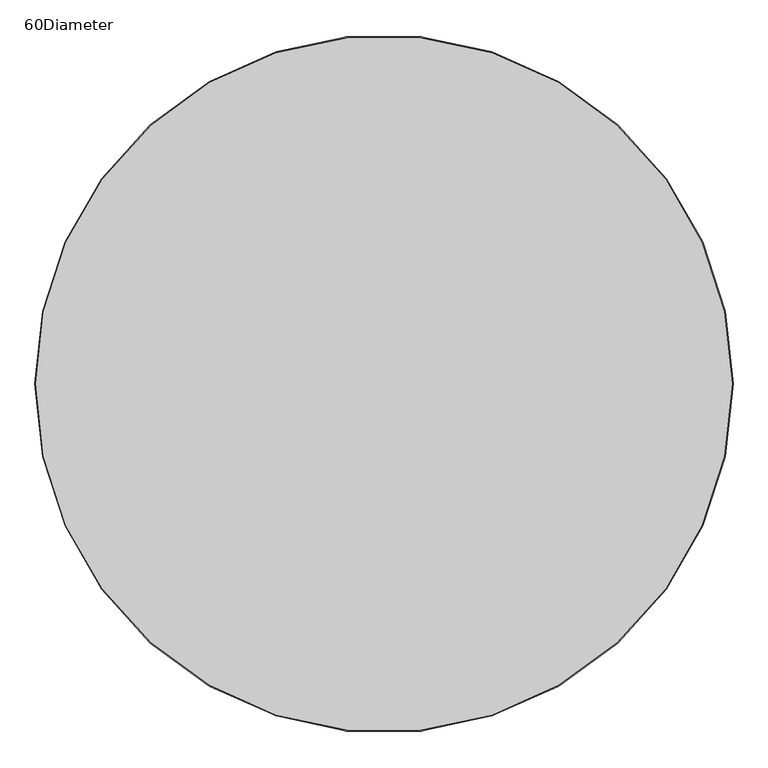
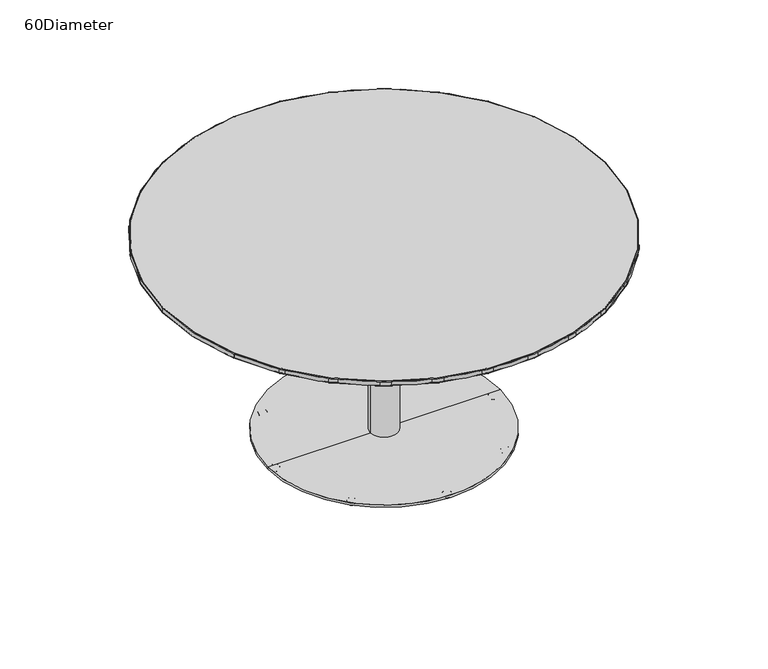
"""IFC4 building model written with IfcOpenShell, lengths in millimetres: furniture geometry, Coalesse_AM_Table_Conference_Montara650_WorkHeight_Round : 60Diameter."""

from ifc_helpers import new_model, si_unit, point, frame, origin, origin_with_axes, origin_2d, place, context, project, spatial, polyline, circle_curve, ellipse_curve, trimmed, segment, composite_curve, outline, extrude, source, transform, mapped, element, save
from ifc_brep_helpers import plane_surface, cylinder_surface, revolved_surface, advanced_brep


def furniture_60diameter_19c09006(model_context):
    return source(origin(), model_context, "Body", "SolidModel", [
        advanced_brep(
        [(265.1850578, -265.1850578, 0.0), (272.5277002, -272.5277002, 0.0), (257.8424153, -257.8424153, 0.0), (273.0742024, -273.0742024, 0.5718943), (257.2959132, -257.2959132, 0.5718943), (275.3733015, -275.3733015, 11.2068005), (254.9968141, -254.9968141, 11.2068005), (274.9582806, -274.9582806, 11.9999882), (255.4118349, -255.4118349, 11.9999882), (265.1850578, -265.1850578, 11.9999882)],
        [
            (0, 1),
            (1, 2, circle_curve(frame((265.1850578, -265.1850578, 0.0), z_axis=(0.0, 0.0, -1.0), x_axis=(0.7071067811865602, -0.7071067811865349, 0.0)), 10.3840645)),
            (2, 0),
            (2, 1, circle_curve(frame((265.1850578, -265.1850578, 0.0), z_axis=(0.0, 0.0, -1.0), x_axis=(0.7071067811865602, -0.7071067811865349, 0.0)), 10.3840645)),
            (1, 3, circle_curve(frame((272.5277002, -272.5277002, 0.8081846), z_axis=(-0.7071067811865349, -0.7071067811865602, 0.0), x_axis=(0.7071067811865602, -0.7071067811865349, 0.0)), 0.8081846)),
            (3, 4, circle_curve(frame((265.1850578, -265.1850578, 0.5718943), z_axis=(0.0, 0.0, -1.0), x_axis=(0.7071067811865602, -0.7071067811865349, 0.0)), 11.1569353)),
            (4, 2, circle_curve(frame((257.8424153, -257.8424153, 0.8081846), z_axis=(-0.7071067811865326, -0.7071067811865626, 0.0), x_axis=(-0.7071067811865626, 0.7071067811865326, 0.0)), 0.8081846)),
            (4, 3, circle_curve(frame((265.1850578, -265.1850578, 0.5718943), z_axis=(0.0, 0.0, -1.0), x_axis=(0.7071067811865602, -0.7071067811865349, 0.0)), 11.1569353)),
            (3, 5),
            (5, 6, circle_curve(frame((265.1850578, -265.1850578, 11.2068005), z_axis=(0.0, 0.0, -1.0), x_axis=(0.7071067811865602, -0.7071067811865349, 0.0)), 14.4083524)),
            (6, 4),
            (6, 5, circle_curve(frame((265.1850578, -265.1850578, 11.2068005), z_axis=(0.0, 0.0, -1.0), x_axis=(0.7071067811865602, -0.7071067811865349, 0.0)), 14.4083524)),
            (5, 7, circle_curve(frame((274.9582806, -274.9582806, 11.3862424), z_axis=(-0.7071067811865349, -0.7071067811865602, 0.0), x_axis=(0.7071067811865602, -0.7071067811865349, 0.0)), 0.6137458)),
            (7, 8, circle_curve(frame((265.1850578, -265.1850578, 11.9999882), z_axis=(0.0, 0.0, -1.0), x_axis=(0.7071067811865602, -0.7071067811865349, 0.0)), 13.8214243)),
            (8, 6, circle_curve(frame((255.4118349, -255.4118349, 11.3862424), z_axis=(-0.7071067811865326, -0.7071067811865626, 0.0), x_axis=(-0.7071067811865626, 0.7071067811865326, 0.0)), 0.6137458)),
            (8, 7, circle_curve(frame((265.1850578, -265.1850578, 11.9999882), z_axis=(0.0, 0.0, -1.0), x_axis=(0.7071067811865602, -0.7071067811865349, 0.0)), 13.8214243)),
            (7, 9),
            (9, 8),
        ],
        [
            plane_surface(frame((265.1850578, -265.1850578, 0.0), z_axis=(0.0, 0.0, -1.0000000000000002), x_axis=(0.7071067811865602, -0.7071067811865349, 0.0))),
            revolved_surface(trimmed(ellipse_curve(frame((272.5277002, -272.5277002, 0.8081846), z_axis=(0.7071067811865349, 0.7071067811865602, 0.0), x_axis=(0.7071067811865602, -0.7071067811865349, 0.0)), 0.8081846, 0.8081846), [point((273.0742024, -273.0742024, 0.5718943))], [point((272.5277002, -272.5277002, 0.0))], True, "CARTESIAN"), (265.1850578, -265.1850578, 12.2086845), (0.0, 0.0, -1.0)),
            revolved_surface(polyline([(275.3733015, -275.3733015, 11.2068005), (273.0742024, -273.0742024, 0.5718943)]), (265.1850578, -265.1850578, 12.2086845), (0.0, 0.0, -1.0)),
            revolved_surface(trimmed(ellipse_curve(frame((274.9582806, -274.9582806, 11.3862424), z_axis=(0.7071067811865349, 0.7071067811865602, 0.0), x_axis=(0.7071067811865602, -0.7071067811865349, 0.0)), 0.6137458, 0.6137458), [point((274.9582806, -274.9582806, 11.9999882))], [point((275.3733015, -275.3733015, 11.2068005))], True, "CARTESIAN"), (265.1850578, -265.1850578, 12.2086845), (0.0, 0.0, -1.0)),
            plane_surface(frame((265.1850578, -265.1850578, 11.9999882), z_axis=(0.0, 0.0, 1.0000000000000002), x_axis=(0.7071067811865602, -0.7071067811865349, 0.0))),
        ],
        [
            (0, [[1, 2, 3]]),
            (0, [[-3, 4, -1]]),
            (1, [[-2, 5, 6, 7]]),
            (1, [[-4, -7, 8, -5]]),
            (2, [[-6, 9, 10, 11]]),
            (2, [[-8, -11, 12, -9]]),
            (3, [[-10, 13, 14, 15]]),
            (3, [[-12, -15, 16, -13]]),
            (4, [[-14, 17, 18]]),
            (4, [[-16, -18, -17]]),
        ],
    ),
        advanced_brep(
        [(-257.8424153, -257.8424153, 0.0), (-272.5277002, -272.5277002, 0.0), (-265.1850578, -265.1850578, 0.0), (-257.2959132, -257.2959132, 0.5718943), (-273.0742024, -273.0742024, 0.5718943), (-254.9968141, -254.9968141, 11.2068005), (-275.3733015, -275.3733015, 11.2068005), (-255.4118349, -255.4118349, 11.9999882), (-274.9582806, -274.9582806, 11.9999882), (-265.1850578, -265.1850578, 11.9999882)],
        [
            (0, 1, circle_curve(frame((-265.1850578, -265.1850578, 0.0), z_axis=(0.0, 0.0, -1.0), x_axis=(-0.7071067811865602, -0.7071067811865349, 0.0)), 10.3840645)),
            (1, 2),
            (2, 0),
            (1, 0, circle_curve(frame((-265.1850578, -265.1850578, 0.0), z_axis=(0.0, 0.0, -1.0), x_axis=(-0.7071067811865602, -0.7071067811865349, 0.0)), 10.3840645)),
            (3, 4, circle_curve(frame((-265.1850578, -265.1850578, 0.5718943), z_axis=(0.0, 0.0, -1.0), x_axis=(-0.7071067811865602, -0.7071067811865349, 0.0)), 11.1569353)),
            (4, 1, circle_curve(frame((-272.5277002, -272.5277002, 0.8081846), z_axis=(0.7071067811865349, -0.7071067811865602, 0.0), x_axis=(-0.7071067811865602, -0.7071067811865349, 0.0)), 0.8081846)),
            (0, 3, circle_curve(frame((-257.8424153, -257.8424153, 0.8081846), z_axis=(0.7071067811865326, -0.7071067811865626, 0.0), x_axis=(0.7071067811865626, 0.7071067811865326, 0.0)), 0.8081846)),
            (4, 3, circle_curve(frame((-265.1850578, -265.1850578, 0.5718943), z_axis=(0.0, 0.0, -1.0), x_axis=(-0.7071067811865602, -0.7071067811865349, 0.0)), 11.1569353)),
            (5, 6, circle_curve(frame((-265.1850578, -265.1850578, 11.2068005), z_axis=(0.0, 0.0, -1.0), x_axis=(-0.7071067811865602, -0.7071067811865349, 0.0)), 14.4083524)),
            (6, 4),
            (3, 5),
            (6, 5, circle_curve(frame((-265.1850578, -265.1850578, 11.2068005), z_axis=(0.0, 0.0, -1.0), x_axis=(-0.7071067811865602, -0.7071067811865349, 0.0)), 14.4083524)),
            (7, 8, circle_curve(frame((-265.1850578, -265.1850578, 11.9999882), z_axis=(0.0, 0.0, -1.0), x_axis=(-0.7071067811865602, -0.7071067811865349, 0.0)), 13.8214243)),
            (8, 6, circle_curve(frame((-274.9582806, -274.9582806, 11.3862424), z_axis=(0.7071067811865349, -0.7071067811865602, 0.0), x_axis=(-0.7071067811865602, -0.7071067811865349, 0.0)), 0.6137458)),
            (5, 7, circle_curve(frame((-255.4118349, -255.4118349, 11.3862424), z_axis=(0.7071067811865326, -0.7071067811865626, 0.0), x_axis=(0.7071067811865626, 0.7071067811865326, 0.0)), 0.6137458)),
            (8, 7, circle_curve(frame((-265.1850578, -265.1850578, 11.9999882), z_axis=(0.0, 0.0, -1.0), x_axis=(-0.7071067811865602, -0.7071067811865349, 0.0)), 13.8214243)),
            (9, 8),
            (7, 9),
        ],
        [
            plane_surface(frame((-265.1850578, -265.1850578, 0.0), z_axis=(0.0, 0.0, -1.0000000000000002), x_axis=(-0.7071067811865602, -0.7071067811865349, 0.0))),
            revolved_surface(trimmed(ellipse_curve(frame((-272.5277002, -272.5277002, 0.8081846), z_axis=(-0.7071067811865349, 0.7071067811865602, 0.0), x_axis=(-0.7071067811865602, -0.7071067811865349, 0.0)), 0.8081846, 0.8081846), [point((-272.5277002, -272.5277002, 0.0))], [point((-273.0742024, -273.0742024, 0.5718943))], True, "CARTESIAN"), (-265.1850578, -265.1850578, 12.2086845), (0.0, 0.0, 1.0)),
            revolved_surface(polyline([(-273.0742024, -273.0742024, 0.5718943), (-275.3733015, -275.3733015, 11.2068005)]), (-265.1850578, -265.1850578, 12.2086845), (0.0, 0.0, 1.0)),
            revolved_surface(trimmed(ellipse_curve(frame((-274.9582806, -274.9582806, 11.3862424), z_axis=(-0.7071067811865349, 0.7071067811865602, 0.0), x_axis=(-0.7071067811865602, -0.7071067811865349, 0.0)), 0.6137458, 0.6137458), [point((-275.3733015, -275.3733015, 11.2068005))], [point((-274.9582806, -274.9582806, 11.9999882))], True, "CARTESIAN"), (-265.1850578, -265.1850578, 12.2086845), (0.0, 0.0, 1.0)),
            plane_surface(frame((-265.1850578, -265.1850578, 11.9999882), z_axis=(0.0, 0.0, 1.0000000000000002), x_axis=(-0.7071067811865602, -0.7071067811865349, 0.0))),
        ],
        [
            (0, [[1, 2, 3]]),
            (0, [[4, -3, -2]]),
            (1, [[5, 6, -1, 7]]),
            (1, [[8, -7, -4, -6]]),
            (2, [[9, 10, -5, 11]]),
            (2, [[12, -11, -8, -10]]),
            (3, [[13, 14, -9, 15]]),
            (3, [[16, -15, -12, -14]]),
            (4, [[17, -13, 18]]),
            (4, [[-18, -16, -17]]),
        ],
    ),
        advanced_brep(
        [(0.0, -364.6442407, 0.0), (0.0, -385.4123697, 0.0), (0.0, -375.0283052, 0.0), (0.0, -363.87137, 0.5718943), (0.0, -386.1852405, 0.5718943), (0.0, -360.6199529, 11.2068005), (0.0, -389.4366576, 11.2068005), (0.0, -361.2068809, 11.9999882), (0.0, -388.8497296, 11.9999882), (0.0, -375.0283052, 11.9999882)],
        [
            (0, 1, circle_curve(frame((0.0, -375.0283052, 0.0), z_axis=(0.0, 0.0, -1.0), x_axis=(0.0, -1.0, 0.0)), 10.3840645)),
            (1, 2),
            (2, 0),
            (1, 0, circle_curve(frame((0.0, -375.0283052, 0.0), z_axis=(0.0, 0.0, -1.0), x_axis=(0.0, -1.0, 0.0)), 10.3840645)),
            (3, 4, circle_curve(frame((0.0, -375.0283052, 0.5718943), z_axis=(0.0, 0.0, -1.0), x_axis=(0.0, -1.0, 0.0)), 11.1569353)),
            (4, 1, circle_curve(frame((0.0, -385.4123697, 0.8081846), z_axis=(1.0, 0.0, 0.0), x_axis=(0.0, -1.0, 0.0)), 0.8081846)),
            (0, 3, circle_curve(frame((0.0, -364.6442407, 0.8081846), z_axis=(1.0, 0.0, 0.0), x_axis=(0.0, 1.0, 0.0)), 0.8081846)),
            (4, 3, circle_curve(frame((0.0, -375.0283052, 0.5718943), z_axis=(0.0, 0.0, -1.0), x_axis=(0.0, -1.0, 0.0)), 11.1569353)),
            (5, 6, circle_curve(frame((0.0, -375.0283052, 11.2068005), z_axis=(0.0, 0.0, -1.0), x_axis=(0.0, -1.0, 0.0)), 14.4083524)),
            (6, 4),
            (3, 5),
            (6, 5, circle_curve(frame((0.0, -375.0283052, 11.2068005), z_axis=(0.0, 0.0, -1.0), x_axis=(0.0, -1.0, 0.0)), 14.4083524)),
            (7, 8, circle_curve(frame((0.0, -375.0283052, 11.9999882), z_axis=(0.0, 0.0, -1.0), x_axis=(0.0, -1.0, 0.0)), 13.8214243)),
            (8, 6, circle_curve(frame((0.0, -388.8497296, 11.3862424), z_axis=(1.0, 0.0, 0.0), x_axis=(0.0, -1.0, 0.0)), 0.6137458)),
            (5, 7, circle_curve(frame((0.0, -361.2068809, 11.3862424), z_axis=(1.0, 0.0, 0.0), x_axis=(0.0, 1.0, 0.0)), 0.6137458)),
            (8, 7, circle_curve(frame((0.0, -375.0283052, 11.9999882), z_axis=(0.0, 0.0, -1.0), x_axis=(0.0, -1.0, 0.0)), 13.8214243)),
            (9, 8),
            (7, 9),
        ],
        [
            plane_surface(frame((0.0, -375.0283052, 0.0), z_axis=(0.0, 0.0, -1.0), x_axis=(0.0, -1.0, 0.0))),
            revolved_surface(trimmed(ellipse_curve(frame((0.0, -385.4123697, 0.8081846), z_axis=(-1.0, 0.0, 0.0), x_axis=(0.0, -1.0, 0.0)), 0.8081846, 0.8081846), [point((0.0, -385.4123697, 0.0))], [point((0.0, -386.1852405, 0.5718943))], True, "CARTESIAN"), (0.0, -375.0283052, 12.2086845), (0.0, 0.0, 1.0)),
            revolved_surface(polyline([(0.0, -386.1852405, 0.5718943), (0.0, -389.4366576, 11.2068005)]), (0.0, -375.0283052, 12.2086845), (0.0, 0.0, 1.0)),
            revolved_surface(trimmed(ellipse_curve(frame((0.0, -388.8497296, 11.3862424), z_axis=(-1.0, 0.0, 0.0), x_axis=(0.0, -1.0, 0.0)), 0.6137458, 0.6137458), [point((0.0, -389.4366576, 11.2068005))], [point((0.0, -388.8497296, 11.9999882))], True, "CARTESIAN"), (0.0, -375.0283052, 12.2086845), (0.0, 0.0, 1.0)),
            plane_surface(frame((0.0, -375.0283052, 11.9999882), z_axis=(0.0, 0.0, 1.0), x_axis=(0.0, -1.0, 0.0))),
        ],
        [
            (0, [[1, 2, 3]]),
            (0, [[4, -3, -2]]),
            (1, [[5, 6, -1, 7]]),
            (1, [[8, -7, -4, -6]]),
            (2, [[9, 10, -5, 11]]),
            (2, [[12, -11, -8, -10]]),
            (3, [[13, 14, -9, 15]]),
            (3, [[16, -15, -12, -14]]),
            (4, [[17, -13, 18]]),
            (4, [[-18, -16, -17]]),
        ],
    ),
        advanced_brep(
        [(364.6442407, 0.0, 0.0), (385.4123697, 0.0, 0.0), (375.0283052, 0.0, 0.0), (363.87137, 0.0, 0.5718943), (386.1852405, 0.0, 0.5718943), (360.6199529, 0.0, 11.2068005), (389.4366576, 0.0, 11.2068005), (361.2068809, 0.0, 11.9999882), (388.8497296, 0.0, 11.9999882), (375.0283052, 0.0, 11.9999882)],
        [
            (0, 1, circle_curve(frame((375.0283052, 0.0, 0.0), z_axis=(0.0, 0.0, -1.0), x_axis=(1.0, 0.0, 0.0)), 10.3840645)),
            (1, 2),
            (2, 0),
            (1, 0, circle_curve(frame((375.0283052, 0.0, 0.0), z_axis=(0.0, 0.0, -1.0), x_axis=(1.0, 0.0, 0.0)), 10.3840645)),
            (3, 4, circle_curve(frame((375.0283052, 0.0, 0.5718943), z_axis=(0.0, 0.0, -1.0), x_axis=(1.0, 0.0, 0.0)), 11.1569353)),
            (4, 1, circle_curve(frame((385.4123697, 0.0, 0.8081846), z_axis=(0.0, 1.0, 0.0), x_axis=(1.0, 0.0, 0.0)), 0.8081846)),
            (0, 3, circle_curve(frame((364.6442407, 0.0, 0.8081846), z_axis=(0.0, 1.0, 0.0), x_axis=(-1.0, 0.0, 0.0)), 0.8081846)),
            (4, 3, circle_curve(frame((375.0283052, 0.0, 0.5718943), z_axis=(0.0, 0.0, -1.0), x_axis=(1.0, 0.0, 0.0)), 11.1569353)),
            (5, 6, circle_curve(frame((375.0283052, 0.0, 11.2068005), z_axis=(0.0, 0.0, -1.0), x_axis=(1.0, 0.0, 0.0)), 14.4083524)),
            (6, 4),
            (3, 5),
            (6, 5, circle_curve(frame((375.0283052, 0.0, 11.2068005), z_axis=(0.0, 0.0, -1.0), x_axis=(1.0, 0.0, 0.0)), 14.4083524)),
            (7, 8, circle_curve(frame((375.0283052, 0.0, 11.9999882), z_axis=(0.0, 0.0, -1.0), x_axis=(1.0, 0.0, 0.0)), 13.8214243)),
            (8, 6, circle_curve(frame((388.8497296, 0.0, 11.3862424), z_axis=(0.0, 1.0, 0.0), x_axis=(1.0, 0.0, 0.0)), 0.6137458)),
            (5, 7, circle_curve(frame((361.2068809, 0.0, 11.3862424), z_axis=(0.0, 1.0, 0.0), x_axis=(-1.0, 0.0, 0.0)), 0.6137458)),
            (8, 7, circle_curve(frame((375.0283052, 0.0, 11.9999882), z_axis=(0.0, 0.0, -1.0), x_axis=(1.0, 0.0, 0.0)), 13.8214243)),
            (9, 8),
            (7, 9),
        ],
        [
            plane_surface(frame((375.0283052, 0.0, 0.0), z_axis=(0.0, 0.0, -1.0), x_axis=(1.0, 0.0, 0.0))),
            revolved_surface(trimmed(ellipse_curve(frame((385.4123697, 0.0, 0.8081846), z_axis=(0.0, -1.0, 0.0), x_axis=(1.0, 0.0, 0.0)), 0.8081846, 0.8081846), [point((385.4123697, 0.0, 0.0))], [point((386.1852405, 0.0, 0.5718943))], True, "CARTESIAN"), (375.0283052, 0.0, 12.2086845), (0.0, 0.0, 1.0)),
            revolved_surface(polyline([(386.1852405, 0.0, 0.5718943), (389.4366576, 0.0, 11.2068005)]), (375.0283052, 0.0, 12.2086845), (0.0, 0.0, 1.0)),
            revolved_surface(trimmed(ellipse_curve(frame((388.8497296, 0.0, 11.3862424), z_axis=(0.0, -1.0, 0.0), x_axis=(1.0, 0.0, 0.0)), 0.6137458, 0.6137458), [point((389.4366576, 0.0, 11.2068005))], [point((388.8497296, 0.0, 11.9999882))], True, "CARTESIAN"), (375.0283052, 0.0, 12.2086845), (0.0, 0.0, 1.0)),
            plane_surface(frame((375.0283052, 0.0, 11.9999882), z_axis=(0.0, 0.0, 1.0), x_axis=(1.0, 0.0, 0.0))),
        ],
        [
            (0, [[1, 2, 3]]),
            (0, [[4, -3, -2]]),
            (1, [[5, 6, -1, 7]]),
            (1, [[8, -7, -4, -6]]),
            (2, [[9, 10, -5, 11]]),
            (2, [[12, -11, -8, -10]]),
            (3, [[13, 14, -9, 15]]),
            (3, [[16, -15, -12, -14]]),
            (4, [[17, -13, 18]]),
            (4, [[-18, -16, -17]]),
        ],
    ),
        advanced_brep(
        [(257.8424153, 257.8424153, 0.0), (272.5277002, 272.5277002, 0.0), (265.1850578, 265.1850578, 0.0), (257.2959132, 257.2959132, 0.5718943), (273.0742024, 273.0742024, 0.5718943), (254.9968141, 254.9968141, 11.2068005), (275.3733015, 275.3733015, 11.2068005), (255.4118349, 255.4118349, 11.9999882), (274.9582806, 274.9582806, 11.9999882), (265.1850578, 265.1850578, 11.9999882)],
        [
            (0, 1, circle_curve(frame((265.1850578, 265.1850578, 0.0), z_axis=(0.0, 0.0, -1.0), x_axis=(0.7071067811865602, 0.7071067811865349, 0.0)), 10.3840645)),
            (1, 2),
            (2, 0),
            (1, 0, circle_curve(frame((265.1850578, 265.1850578, 0.0), z_axis=(0.0, 0.0, -1.0), x_axis=(0.7071067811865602, 0.7071067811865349, 0.0)), 10.3840645)),
            (3, 4, circle_curve(frame((265.1850578, 265.1850578, 0.5718943), z_axis=(0.0, 0.0, -1.0), x_axis=(0.7071067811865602, 0.7071067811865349, 0.0)), 11.1569353)),
            (4, 1, circle_curve(frame((272.5277002, 272.5277002, 0.8081846), z_axis=(-0.7071067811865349, 0.7071067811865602, 0.0), x_axis=(0.7071067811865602, 0.7071067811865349, 0.0)), 0.8081846)),
            (0, 3, circle_curve(frame((257.8424153, 257.8424153, 0.8081846), z_axis=(-0.7071067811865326, 0.7071067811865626, 0.0), x_axis=(-0.7071067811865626, -0.7071067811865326, 0.0)), 0.8081846)),
            (4, 3, circle_curve(frame((265.1850578, 265.1850578, 0.5718943), z_axis=(0.0, 0.0, -1.0), x_axis=(0.7071067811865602, 0.7071067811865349, 0.0)), 11.1569353)),
            (5, 6, circle_curve(frame((265.1850578, 265.1850578, 11.2068005), z_axis=(0.0, 0.0, -1.0), x_axis=(0.7071067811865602, 0.7071067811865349, 0.0)), 14.4083524)),
            (6, 4),
            (3, 5),
            (6, 5, circle_curve(frame((265.1850578, 265.1850578, 11.2068005), z_axis=(0.0, 0.0, -1.0), x_axis=(0.7071067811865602, 0.7071067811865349, 0.0)), 14.4083524)),
            (7, 8, circle_curve(frame((265.1850578, 265.1850578, 11.9999882), z_axis=(0.0, 0.0, -1.0), x_axis=(0.7071067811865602, 0.7071067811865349, 0.0)), 13.8214243)),
            (8, 6, circle_curve(frame((274.9582806, 274.9582806, 11.3862424), z_axis=(-0.7071067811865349, 0.7071067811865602, 0.0), x_axis=(0.7071067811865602, 0.7071067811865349, 0.0)), 0.6137458)),
            (5, 7, circle_curve(frame((255.4118349, 255.4118349, 11.3862424), z_axis=(-0.7071067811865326, 0.7071067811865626, 0.0), x_axis=(-0.7071067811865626, -0.7071067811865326, 0.0)), 0.6137458)),
            (8, 7, circle_curve(frame((265.1850578, 265.1850578, 11.9999882), z_axis=(0.0, 0.0, -1.0), x_axis=(0.7071067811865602, 0.7071067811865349, 0.0)), 13.8214243)),
            (9, 8),
            (7, 9),
        ],
        [
            plane_surface(frame((265.1850578, 265.1850578, 0.0), z_axis=(0.0, 0.0, -1.0000000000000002), x_axis=(0.7071067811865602, 0.7071067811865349, 0.0))),
            revolved_surface(trimmed(ellipse_curve(frame((272.5277002, 272.5277002, 0.8081846), z_axis=(0.7071067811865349, -0.7071067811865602, 0.0), x_axis=(0.7071067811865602, 0.7071067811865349, 0.0)), 0.8081846, 0.8081846), [point((272.5277002, 272.5277002, 0.0))], [point((273.0742024, 273.0742024, 0.5718943))], True, "CARTESIAN"), (265.1850578, 265.1850578, 12.2086845), (0.0, 0.0, 1.0)),
            revolved_surface(polyline([(273.0742024, 273.0742024, 0.5718943), (275.3733015, 275.3733015, 11.2068005)]), (265.1850578, 265.1850578, 12.2086845), (0.0, 0.0, 1.0)),
            revolved_surface(trimmed(ellipse_curve(frame((274.9582806, 274.9582806, 11.3862424), z_axis=(0.7071067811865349, -0.7071067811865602, 0.0), x_axis=(0.7071067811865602, 0.7071067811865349, 0.0)), 0.6137458, 0.6137458), [point((275.3733015, 275.3733015, 11.2068005))], [point((274.9582806, 274.9582806, 11.9999882))], True, "CARTESIAN"), (265.1850578, 265.1850578, 12.2086845), (0.0, 0.0, 1.0)),
            plane_surface(frame((265.1850578, 265.1850578, 11.9999882), z_axis=(0.0, 0.0, 1.0000000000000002), x_axis=(0.7071067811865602, 0.7071067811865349, 0.0))),
        ],
        [
            (0, [[1, 2, 3]]),
            (0, [[4, -3, -2]]),
            (1, [[5, 6, -1, 7]]),
            (1, [[8, -7, -4, -6]]),
            (2, [[9, 10, -5, 11]]),
            (2, [[12, -11, -8, -10]]),
            (3, [[13, 14, -9, 15]]),
            (3, [[16, -15, -12, -14]]),
            (4, [[17, -13, 18]]),
            (4, [[-18, -16, -17]]),
        ],
    ),
        advanced_brep(
        [(-265.1850578, 265.1850578, 0.0), (-272.5277002, 272.5277002, 0.0), (-257.8424153, 257.8424153, 0.0), (-273.0742024, 273.0742024, 0.5718943), (-257.2959132, 257.2959132, 0.5718943), (-275.3733015, 275.3733015, 11.2068005), (-254.9968141, 254.9968141, 11.2068005), (-274.9582806, 274.9582806, 11.9999882), (-255.4118349, 255.4118349, 11.9999882), (-265.1850578, 265.1850578, 11.9999882)],
        [
            (0, 1),
            (1, 2, circle_curve(frame((-265.1850578, 265.1850578, 0.0), z_axis=(0.0, 0.0, -1.0), x_axis=(-0.7071067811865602, 0.7071067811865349, 0.0)), 10.3840645)),
            (2, 0),
            (2, 1, circle_curve(frame((-265.1850578, 265.1850578, 0.0), z_axis=(0.0, 0.0, -1.0), x_axis=(-0.7071067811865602, 0.7071067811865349, 0.0)), 10.3840645)),
            (1, 3, circle_curve(frame((-272.5277002, 272.5277002, 0.8081846), z_axis=(0.7071067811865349, 0.7071067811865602, 0.0), x_axis=(-0.7071067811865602, 0.7071067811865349, 0.0)), 0.8081846)),
            (3, 4, circle_curve(frame((-265.1850578, 265.1850578, 0.5718943), z_axis=(0.0, 0.0, -1.0), x_axis=(-0.7071067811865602, 0.7071067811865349, 0.0)), 11.1569353)),
            (4, 2, circle_curve(frame((-257.8424153, 257.8424153, 0.8081846), z_axis=(0.7071067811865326, 0.7071067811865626, 0.0), x_axis=(0.7071067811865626, -0.7071067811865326, 0.0)), 0.8081846)),
            (4, 3, circle_curve(frame((-265.1850578, 265.1850578, 0.5718943), z_axis=(0.0, 0.0, -1.0), x_axis=(-0.7071067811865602, 0.7071067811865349, 0.0)), 11.1569353)),
            (3, 5),
            (5, 6, circle_curve(frame((-265.1850578, 265.1850578, 11.2068005), z_axis=(0.0, 0.0, -1.0), x_axis=(-0.7071067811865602, 0.7071067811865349, 0.0)), 14.4083524)),
            (6, 4),
            (6, 5, circle_curve(frame((-265.1850578, 265.1850578, 11.2068005), z_axis=(0.0, 0.0, -1.0), x_axis=(-0.7071067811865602, 0.7071067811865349, 0.0)), 14.4083524)),
            (5, 7, circle_curve(frame((-274.9582806, 274.9582806, 11.3862424), z_axis=(0.7071067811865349, 0.7071067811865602, 0.0), x_axis=(-0.7071067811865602, 0.7071067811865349, 0.0)), 0.6137458)),
            (7, 8, circle_curve(frame((-265.1850578, 265.1850578, 11.9999882), z_axis=(0.0, 0.0, -1.0), x_axis=(-0.7071067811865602, 0.7071067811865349, 0.0)), 13.8214243)),
            (8, 6, circle_curve(frame((-255.4118349, 255.4118349, 11.3862424), z_axis=(0.7071067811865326, 0.7071067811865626, 0.0), x_axis=(0.7071067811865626, -0.7071067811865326, 0.0)), 0.6137458)),
            (8, 7, circle_curve(frame((-265.1850578, 265.1850578, 11.9999882), z_axis=(0.0, 0.0, -1.0), x_axis=(-0.7071067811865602, 0.7071067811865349, 0.0)), 13.8214243)),
            (7, 9),
            (9, 8),
        ],
        [
            plane_surface(frame((-265.1850578, 265.1850578, 0.0), z_axis=(0.0, 0.0, -1.0000000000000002), x_axis=(-0.7071067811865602, 0.7071067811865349, 0.0))),
            revolved_surface(trimmed(ellipse_curve(frame((-272.5277002, 272.5277002, 0.8081846), z_axis=(-0.7071067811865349, -0.7071067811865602, 0.0), x_axis=(-0.7071067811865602, 0.7071067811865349, 0.0)), 0.8081846, 0.8081846), [point((-273.0742024, 273.0742024, 0.5718943))], [point((-272.5277002, 272.5277002, 0.0))], True, "CARTESIAN"), (-265.1850578, 265.1850578, 12.2086845), (0.0, 0.0, -1.0)),
            revolved_surface(polyline([(-275.3733015, 275.3733015, 11.2068005), (-273.0742024, 273.0742024, 0.5718943)]), (-265.1850578, 265.1850578, 12.2086845), (0.0, 0.0, -1.0)),
            revolved_surface(trimmed(ellipse_curve(frame((-274.9582806, 274.9582806, 11.3862424), z_axis=(-0.7071067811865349, -0.7071067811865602, 0.0), x_axis=(-0.7071067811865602, 0.7071067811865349, 0.0)), 0.6137458, 0.6137458), [point((-274.9582806, 274.9582806, 11.9999882))], [point((-275.3733015, 275.3733015, 11.2068005))], True, "CARTESIAN"), (-265.1850578, 265.1850578, 12.2086845), (0.0, 0.0, -1.0)),
            plane_surface(frame((-265.1850578, 265.1850578, 11.9999882), z_axis=(0.0, 0.0, 1.0000000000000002), x_axis=(-0.7071067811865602, 0.7071067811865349, 0.0))),
        ],
        [
            (0, [[1, 2, 3]]),
            (0, [[-3, 4, -1]]),
            (1, [[-2, 5, 6, 7]]),
            (1, [[-4, -7, 8, -5]]),
            (2, [[-6, 9, 10, 11]]),
            (2, [[-8, -11, 12, -9]]),
            (3, [[-10, 13, 14, 15]]),
            (3, [[-12, -15, 16, -13]]),
            (4, [[-14, 17, 18]]),
            (4, [[-16, -18, -17]]),
        ],
    ),
        advanced_brep(
        [(0.0, 375.0283052, 0.0), (0.0, 385.4123697, 0.0), (0.0, 364.6442407, 0.0), (0.0, 386.1852405, 0.5718943), (0.0, 363.87137, 0.5718943), (0.0, 389.4366576, 11.2068005), (0.0, 360.6199529, 11.2068005), (0.0, 388.8497296, 11.9999882), (0.0, 361.2068809, 11.9999882), (0.0, 375.0283052, 11.9999882)],
        [
            (0, 1),
            (1, 2, circle_curve(frame((0.0, 375.0283052, 0.0), z_axis=(0.0, 0.0, -1.0), x_axis=(0.0, 1.0, 0.0)), 10.3840645)),
            (2, 0),
            (2, 1, circle_curve(frame((0.0, 375.0283052, 0.0), z_axis=(0.0, 0.0, -1.0), x_axis=(0.0, 1.0, 0.0)), 10.3840645)),
            (1, 3, circle_curve(frame((0.0, 385.4123697, 0.8081846), z_axis=(1.0, 0.0, 0.0), x_axis=(0.0, 1.0, 0.0)), 0.8081846)),
            (3, 4, circle_curve(frame((0.0, 375.0283052, 0.5718943), z_axis=(0.0, 0.0, -1.0), x_axis=(0.0, 1.0, 0.0)), 11.1569353)),
            (4, 2, circle_curve(frame((0.0, 364.6442407, 0.8081846), z_axis=(1.0, 0.0, 0.0), x_axis=(0.0, -1.0, 0.0)), 0.8081846)),
            (4, 3, circle_curve(frame((0.0, 375.0283052, 0.5718943), z_axis=(0.0, 0.0, -1.0), x_axis=(0.0, 1.0, 0.0)), 11.1569353)),
            (3, 5),
            (5, 6, circle_curve(frame((0.0, 375.0283052, 11.2068005), z_axis=(0.0, 0.0, -1.0), x_axis=(0.0, 1.0, 0.0)), 14.4083524)),
            (6, 4),
            (6, 5, circle_curve(frame((0.0, 375.0283052, 11.2068005), z_axis=(0.0, 0.0, -1.0), x_axis=(0.0, 1.0, 0.0)), 14.4083524)),
            (5, 7, circle_curve(frame((0.0, 388.8497296, 11.3862424), z_axis=(1.0, 0.0, 0.0), x_axis=(0.0, 1.0, 0.0)), 0.6137458)),
            (7, 8, circle_curve(frame((0.0, 375.0283052, 11.9999882), z_axis=(0.0, 0.0, -1.0), x_axis=(0.0, 1.0, 0.0)), 13.8214243)),
            (8, 6, circle_curve(frame((0.0, 361.2068809, 11.3862424), z_axis=(1.0, 0.0, 0.0), x_axis=(0.0, -1.0, 0.0)), 0.6137458)),
            (8, 7, circle_curve(frame((0.0, 375.0283052, 11.9999882), z_axis=(0.0, 0.0, -1.0), x_axis=(0.0, 1.0, 0.0)), 13.8214243)),
            (7, 9),
            (9, 8),
        ],
        [
            plane_surface(frame((0.0, 375.0283052, 0.0), z_axis=(0.0, 0.0, -1.0), x_axis=(0.0, 1.0, 0.0))),
            revolved_surface(trimmed(ellipse_curve(frame((0.0, 385.4123697, 0.8081846), z_axis=(-1.0, 0.0, 0.0), x_axis=(0.0, 1.0, 0.0)), 0.8081846, 0.8081846), [point((0.0, 386.1852405, 0.5718943))], [point((0.0, 385.4123697, 0.0))], True, "CARTESIAN"), (0.0, 375.0283052, 12.2086845), (0.0, 0.0, -1.0)),
            revolved_surface(polyline([(0.0, 389.4366576, 11.2068005), (0.0, 386.1852405, 0.5718943)]), (0.0, 375.0283052, 12.2086845), (0.0, 0.0, -1.0)),
            revolved_surface(trimmed(ellipse_curve(frame((0.0, 388.8497296, 11.3862424), z_axis=(-1.0, 0.0, 0.0), x_axis=(0.0, 1.0, 0.0)), 0.6137458, 0.6137458), [point((0.0, 388.8497296, 11.9999882))], [point((0.0, 389.4366576, 11.2068005))], True, "CARTESIAN"), (0.0, 375.0283052, 12.2086845), (0.0, 0.0, -1.0)),
            plane_surface(frame((0.0, 375.0283052, 11.9999882), z_axis=(0.0, 0.0, 1.0), x_axis=(0.0, 1.0, 0.0))),
        ],
        [
            (0, [[1, 2, 3]]),
            (0, [[-3, 4, -1]]),
            (1, [[-2, 5, 6, 7]]),
            (1, [[-4, -7, 8, -5]]),
            (2, [[-6, 9, 10, 11]]),
            (2, [[-8, -11, 12, -9]]),
            (3, [[-10, 13, 14, 15]]),
            (3, [[-12, -15, 16, -13]]),
            (4, [[-14, 17, 18]]),
            (4, [[-16, -18, -17]]),
        ],
    ),
        advanced_brep(
        [(-375.0283052, 0.0, 0.0), (-385.4123697, 0.0, 0.0), (-364.6442407, 0.0, 0.0), (-386.1852405, 0.0, 0.5718943), (-363.87137, 0.0, 0.5718943), (-389.4366576, 0.0, 11.2068005), (-360.6199529, 0.0, 11.2068005), (-388.8497296, 0.0, 11.9999882), (-361.2068809, 0.0, 11.9999882), (-375.0283052, 0.0, 11.9999882)],
        [
            (0, 1),
            (1, 2, circle_curve(frame((-375.0283052, 0.0, 0.0), z_axis=(0.0, 0.0, -1.0), x_axis=(-1.0, 0.0, 0.0)), 10.3840645)),
            (2, 0),
            (2, 1, circle_curve(frame((-375.0283052, 0.0, 0.0), z_axis=(0.0, 0.0, -1.0), x_axis=(-1.0, 0.0, 0.0)), 10.3840645)),
            (1, 3, circle_curve(frame((-385.4123697, 0.0, 0.8081846), z_axis=(0.0, 1.0, 0.0), x_axis=(-1.0, 0.0, 0.0)), 0.8081846)),
            (3, 4, circle_curve(frame((-375.0283052, 0.0, 0.5718943), z_axis=(0.0, 0.0, -1.0), x_axis=(-1.0, 0.0, 0.0)), 11.1569353)),
            (4, 2, circle_curve(frame((-364.6442407, 0.0, 0.8081846), z_axis=(0.0, 1.0, 0.0), x_axis=(1.0, 0.0, 0.0)), 0.8081846)),
            (4, 3, circle_curve(frame((-375.0283052, 0.0, 0.5718943), z_axis=(0.0, 0.0, -1.0), x_axis=(-1.0, 0.0, 0.0)), 11.1569353)),
            (3, 5),
            (5, 6, circle_curve(frame((-375.0283052, 0.0, 11.2068005), z_axis=(0.0, 0.0, -1.0), x_axis=(-1.0, 0.0, 0.0)), 14.4083524)),
            (6, 4),
            (6, 5, circle_curve(frame((-375.0283052, 0.0, 11.2068005), z_axis=(0.0, 0.0, -1.0), x_axis=(-1.0, 0.0, 0.0)), 14.4083524)),
            (5, 7, circle_curve(frame((-388.8497296, 0.0, 11.3862424), z_axis=(0.0, 1.0, 0.0), x_axis=(-1.0, 0.0, 0.0)), 0.6137458)),
            (7, 8, circle_curve(frame((-375.0283052, 0.0, 11.9999882), z_axis=(0.0, 0.0, -1.0), x_axis=(-1.0, 0.0, 0.0)), 13.8214243)),
            (8, 6, circle_curve(frame((-361.2068809, 0.0, 11.3862424), z_axis=(0.0, 1.0, 0.0), x_axis=(1.0, 0.0, 0.0)), 0.6137458)),
            (8, 7, circle_curve(frame((-375.0283052, 0.0, 11.9999882), z_axis=(0.0, 0.0, -1.0), x_axis=(-1.0, 0.0, 0.0)), 13.8214243)),
            (7, 9),
            (9, 8),
        ],
        [
            plane_surface(frame((-375.0283052, 0.0, 0.0), z_axis=(0.0, 0.0, -1.0), x_axis=(-1.0, 0.0, 0.0))),
            revolved_surface(trimmed(ellipse_curve(frame((-385.4123697, 0.0, 0.8081846), z_axis=(0.0, -1.0, 0.0), x_axis=(-1.0, 0.0, 0.0)), 0.8081846, 0.8081846), [point((-386.1852405, 0.0, 0.5718943))], [point((-385.4123697, 0.0, 0.0))], True, "CARTESIAN"), (-375.0283052, 0.0, 12.2086845), (0.0, 0.0, -1.0)),
            revolved_surface(polyline([(-389.4366576, 0.0, 11.2068005), (-386.1852405, 0.0, 0.5718943)]), (-375.0283052, 0.0, 12.2086845), (0.0, 0.0, -1.0)),
            revolved_surface(trimmed(ellipse_curve(frame((-388.8497296, 0.0, 11.3862424), z_axis=(0.0, -1.0, 0.0), x_axis=(-1.0, 0.0, 0.0)), 0.6137458, 0.6137458), [point((-388.8497296, 0.0, 11.9999882))], [point((-389.4366576, 0.0, 11.2068005))], True, "CARTESIAN"), (-375.0283052, 0.0, 12.2086845), (0.0, 0.0, -1.0)),
            plane_surface(frame((-375.0283052, 0.0, 11.9999882), z_axis=(0.0, 0.0, 1.0), x_axis=(-1.0, 0.0, 0.0))),
        ],
        [
            (0, [[1, 2, 3]]),
            (0, [[-3, 4, -1]]),
            (1, [[-2, 5, 6, 7]]),
            (1, [[-4, -7, 8, -5]]),
            (2, [[-6, 9, 10, 11]]),
            (2, [[-8, -11, 12, -9]]),
            (3, [[-10, 13, 14, 15]]),
            (3, [[-12, -15, 16, -13]]),
            (4, [[-14, 17, 18]]),
            (4, [[-16, -18, -17]]),
        ],
    ),
        advanced_brep(
        [(224.5135601, 0.0, 690.755027), (-224.5135601, 0.0, 690.755027), (-300.298348, 0.0, 690.755027), (300.298348, 0.0, 690.755027), (85.7580854, 0.0, 674.9837029), (-85.7580854, 0.0, 674.9837029), (54.875485, 0.0, 674.9837029), (-54.875485, 0.0, 674.9837029), (47.0120828, 0.0, 19.9999965), (-47.0120828, 0.0, 19.9999965), (-47.0120828, 0.0, 686.7852036), (47.0120828, 0.0, 686.7852036), (401.1092005, 0.0, 19.9999965), (-401.1092005, 0.0, 19.9999965), (401.1092005, 0.0, 11.9999882), (-401.1092005, 0.0, 11.9999882), (0.0, 0.0, 11.9999882), (300.298348, 0.0, 693.930027), (-300.298348, 0.0, 693.930027), (0.0, 0.0, 693.930027), (50.8136087, 0.0, 676.4383874), (-50.8136087, 0.0, 676.4383874), (49.174834, 0.0, 686.7852036), (-49.174834, 0.0, 686.7852036)],
        [
            (0, 1, circle_curve(frame((0.0, 0.0, 690.755027), z_axis=(0.0, 0.0, 1.0), x_axis=(-1.0, 0.0, 0.0)), 224.5135601)),
            (1, 2),
            (2, 3, circle_curve(frame((0.0, 0.0, 690.755027), z_axis=(0.0, 0.0, -1.0), x_axis=(-1.0, 0.0, 0.0)), 300.298348)),
            (3, 0),
            (1, 0, circle_curve(frame((0.0, 0.0, 690.755027), z_axis=(0.0, 0.0, 1.0), x_axis=(-1.0, 0.0, 0.0)), 224.5135601)),
            (3, 2, circle_curve(frame((0.0, 0.0, 690.755027), z_axis=(0.0, 0.0, -1.0), x_axis=(-1.0, 0.0, 0.0)), 300.298348)),
            (4, 5, circle_curve(frame((0.0, 0.0, 674.9837029), z_axis=(0.0, 0.0, 1.0), x_axis=(-1.0, 0.0, 0.0)), 85.7580854)),
            (5, 1),
            (0, 4),
            (5, 4, circle_curve(frame((0.0, 0.0, 674.9837029), z_axis=(0.0, 0.0, 1.0), x_axis=(-1.0, 0.0, 0.0)), 85.7580854)),
            (6, 7, circle_curve(frame((0.0, 0.0, 674.9837029), z_axis=(0.0, 0.0, 1.0), x_axis=(-1.0, 0.0, 0.0)), 54.875485)),
            (7, 5),
            (4, 6),
            (7, 6, circle_curve(frame((0.0, 0.0, 674.9837029), z_axis=(0.0, 0.0, 1.0), x_axis=(-1.0, 0.0, 0.0)), 54.875485)),
            (8, 9, circle_curve(frame((0.0, 0.0, 19.9999965), z_axis=(0.0, 0.0, 1.0), x_axis=(-1.0, 0.0, 0.0)), 47.0120828)),
            (9, 10),
            (10, 11, circle_curve(frame((0.0, 0.0, 686.7852036), z_axis=(0.0, 0.0, -1.0), x_axis=(-1.0, 0.0, 0.0)), 47.0120828)),
            (11, 8),
            (9, 8, circle_curve(frame((0.0, 0.0, 19.9999965), z_axis=(0.0, 0.0, 1.0), x_axis=(-1.0, 0.0, 0.0)), 47.0120828)),
            (11, 10, circle_curve(frame((0.0, 0.0, 686.7852036), z_axis=(0.0, 0.0, -1.0), x_axis=(-1.0, 0.0, 0.0)), 47.0120828)),
            (12, 13, circle_curve(frame((0.0, 0.0, 19.9999965), z_axis=(0.0, 0.0, 1.0), x_axis=(-1.0, 0.0, 0.0)), 401.1092005)),
            (13, 9),
            (8, 12),
            (13, 12, circle_curve(frame((0.0, 0.0, 19.9999965), z_axis=(0.0, 0.0, 1.0), x_axis=(-1.0, 0.0, 0.0)), 401.1092005)),
            (14, 15, circle_curve(frame((0.0, 0.0, 11.9999882), z_axis=(0.0, 0.0, 1.0), x_axis=(-1.0, 0.0, 0.0)), 401.1092005)),
            (15, 13),
            (12, 14),
            (15, 14, circle_curve(frame((0.0, 0.0, 11.9999882), z_axis=(0.0, 0.0, 1.0), x_axis=(-1.0, 0.0, 0.0)), 401.1092005)),
            (16, 15),
            (14, 16),
            (17, 18, circle_curve(frame((0.0, 0.0, 693.930027), z_axis=(0.0, 0.0, 1.0), x_axis=(-1.0, 0.0, 0.0)), 300.298348)),
            (18, 19),
            (19, 17),
            (18, 17, circle_curve(frame((0.0, 0.0, 693.930027), z_axis=(0.0, 0.0, 1.0), x_axis=(-1.0, 0.0, 0.0)), 300.298348)),
            (2, 18),
            (17, 3),
            (20, 21, circle_curve(frame((0.0, 0.0, 676.4383874), z_axis=(0.0, 0.0, 1.0), x_axis=(-1.0, 0.0, 0.0)), 50.8136087)),
            (21, 7),
            (6, 20),
            (21, 20, circle_curve(frame((0.0, 0.0, 676.4383874), z_axis=(0.0, 0.0, 1.0), x_axis=(-1.0, 0.0, 0.0)), 50.8136087)),
            (22, 23, circle_curve(frame((0.0, 0.0, 686.7852036), z_axis=(0.0, 0.0, 1.0), x_axis=(-1.0, 0.0, 0.0)), 49.174834)),
            (23, 21),
            (20, 22),
            (23, 22, circle_curve(frame((0.0, 0.0, 686.7852036), z_axis=(0.0, 0.0, 1.0), x_axis=(-1.0, 0.0, 0.0)), 49.174834)),
            (10, 23),
            (22, 11),
        ],
        [
            plane_surface(frame((0.0, 0.0, 690.755027), z_axis=(0.0, 0.0, -1.0), x_axis=(-1.0, 0.0, 0.0))),
            revolved_surface(polyline([(-224.5135601, 0.0, 690.755027), (-85.7580854, 0.0, 674.9837029)]), (0.0, 0.0, 439.0999965), (0.0, 0.0, -1.0)),
            plane_surface(frame((0.0, 0.0, 674.9837029), z_axis=(0.0, 0.0, -1.0), x_axis=(-1.0, 0.0, 0.0))),
            cylinder_surface(frame((0.0, 0.0, 439.0999965), z_axis=(0.0, 0.0, -1.0), x_axis=(-1.0, 0.0, 0.0)), 47.0120828),
            plane_surface(frame((0.0, 0.0, 19.9999965), z_axis=(0.0, 0.0, 1.0), x_axis=(-1.0, 0.0, 0.0))),
            cylinder_surface(frame((0.0, 0.0, 439.0999965), z_axis=(0.0, 0.0, -1.0), x_axis=(-1.0, 0.0, 0.0)), 401.1092005),
            plane_surface(frame((0.0, 0.0, 11.9999882), z_axis=(0.0, 0.0, -1.0), x_axis=(-1.0, 0.0, 0.0))),
            plane_surface(frame((0.0, 0.0, 693.930027), z_axis=(0.0, 0.0, 1.0), x_axis=(-1.0, 0.0, 0.0))),
            cylinder_surface(frame((0.0, 0.0, 439.0999965), z_axis=(0.0, 0.0, -1.0), x_axis=(-1.0, 0.0, 0.0)), 300.298348),
            revolved_surface(polyline([(-54.875485, 0.0, 674.9837029), (-50.8136087, 0.0, 676.4383874)]), (0.0, 0.0, 439.0999965), (0.0, 0.0, -1.0)),
            revolved_surface(polyline([(-50.8136087, 0.0, 676.4383874), (-49.174834, 0.0, 686.7852036)]), (0.0, 0.0, 439.0999965), (0.0, 0.0, -1.0)),
            plane_surface(frame((0.0, 0.0, 686.7852036), z_axis=(0.0, 0.0, -1.0), x_axis=(-1.0, 0.0, 0.0))),
        ],
        [
            (0, [[1, 2, 3, 4]]),
            (0, [[5, -4, 6, -2]]),
            (1, [[7, 8, -1, 9]]),
            (1, [[10, -9, -5, -8]]),
            (2, [[11, 12, -7, 13]]),
            (2, [[14, -13, -10, -12]]),
            (3, [[15, 16, 17, 18]]),
            (3, [[19, -18, 20, -16]]),
            (4, [[21, 22, -15, 23]]),
            (4, [[24, -23, -19, -22]]),
            (5, [[25, 26, -21, 27]]),
            (5, [[28, -27, -24, -26]]),
            (6, [[29, -25, 30]]),
            (6, [[-30, -28, -29]]),
            (7, [[31, 32, 33]]),
            (7, [[34, -33, -32]]),
            (8, [[-3, 35, -31, 36]]),
            (8, [[-6, -36, -34, -35]]),
            (9, [[37, 38, -11, 39]]),
            (9, [[40, -39, -14, -38]]),
            (10, [[41, 42, -37, 43]]),
            (10, [[44, -43, -40, -42]]),
            (11, [[-17, 45, -41, 46]]),
            (11, [[-20, -46, -44, -45]]),
        ],
    ),
        advanced_brep(
        [(-660.4, 0.0, 693.930027), (660.4, 0.0, 693.930027), (-759.968, 0.0, 706.195891), (759.968, 0.0, 706.195891)],
        [
            (0, 1, circle_curve(frame((0.0, 0.0, 693.930027), z_axis=(0.0, 0.0, -1.0), x_axis=(-1.0, 0.0, 0.0)), 660.4)),
            (1, 0, circle_curve(frame((0.0, 0.0, 693.930027), z_axis=(0.0, 0.0, -1.0), x_axis=(1.0, 0.0, 0.0)), 660.4)),
            (2, 3, circle_curve(frame((0.0, 0.0, 706.195891), z_axis=(0.0, 0.0, 1.0), x_axis=(1.0, 0.0, 0.0)), 759.968)),
            (3, 2, circle_curve(frame((0.0, 0.0, 706.195891), z_axis=(0.0, 0.0, 1.0), x_axis=(-1.0, 0.0, 0.0)), 759.968)),
            (2, 0),
            (1, 3),
        ],
        [
            plane_surface(frame((0.0, 0.0, 693.930027), z_axis=(0.0, 0.0, -1.0), x_axis=(0.0, -1.0, 0.0))),
            plane_surface(frame((0.0, 0.0, 706.195891), z_axis=(0.0, 0.0, 1.0), x_axis=(0.0, -1.0, 0.0))),
            revolved_surface(polyline([(660.3999997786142, 0.0, 693.930027), (759.968, 0.0, 706.195891)]), (0.0, 0.0, 612.5748068), (0.0, 0.0, 1.0)),
            revolved_surface(polyline([(-660.3999997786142, 0.0, 693.930027), (-759.968, 0.0, 706.195891)]), (0.0, 0.0, 612.5748068), (0.0, 0.0, 1.0)),
        ],
        [
            (0, [[1, 2]]),
            (1, [[3, 4]]),
            (2, [[-3, 5, -2, 6]]),
            (3, [[-4, -6, -1, -5]]),
        ],
    ),
        extrude(outline(composite_curve([segment(trimmed(circle_curve(origin_2d(), 759.968), [point((-759.968, 0.0))], [point((759.968, 0.0))], False, "CARTESIAN"), True, "CONTINUOUS"), segment(trimmed(circle_curve(origin_2d(), 759.968), [point((759.968, 0.0))], [point((-759.968, 0.0))], False, "CARTESIAN"), True, "CONTINUOUS")], self_intersect=False)), frame((0.0, 0.0, 706.195891), z_axis=(0.0, 0.0, 1.0), x_axis=(1.0, 0.0, 0.0)), (0.0, 0.0, 1.0), 17.704109),
        advanced_brep(
        [(762.0438665, 0.0, 708.1278467), (-762.0438665, 0.0, 708.1278467), (-759.968, 0.0, 706.195891), (759.968, 0.0, 706.195891), (762.0438665, 0.0, 721.8999283), (-762.0438665, 0.0, 721.8999283), (759.968, 0.0, 723.9), (-759.968, 0.0, 723.9)],
        [
            (0, 1, circle_curve(frame((0.0, 0.0, 708.1278467), z_axis=(0.0, 0.0, -1.0), x_axis=(-1.0, 0.0, 0.0)), 762.0438665)),
            (1, 2, circle_curve(frame((-760.1069224, 0.0, 708.1278467), z_axis=(0.0, -1.0, 0.0), x_axis=(1.0, 0.0, 0.0)), 1.9369441)),
            (2, 3, circle_curve(frame((0.0, 0.0, 706.195891), z_axis=(0.0, 0.0, 1.0), x_axis=(-1.0, 0.0, 0.0)), 759.968)),
            (3, 0, circle_curve(frame((760.1069224, 0.0, 708.1278467), z_axis=(0.0, -1.0, 0.0), x_axis=(-1.0, 0.0, 0.0)), 1.9369441)),
            (4, 5, circle_curve(frame((0.0, 0.0, 721.8999283), z_axis=(0.0, 0.0, -1.0), x_axis=(-1.0, 0.0, 0.0)), 762.0438665)),
            (5, 1),
            (0, 4),
            (6, 7, circle_curve(frame((0.0, 0.0, 723.9), z_axis=(0.0, 0.0, -1.0), x_axis=(-1.0, 0.0, 0.0)), 759.968)),
            (7, 5, circle_curve(frame((-760.0424111, 0.0, 721.8999283), z_axis=(0.0, -1.0, 0.0), x_axis=(1.0, 0.0, 0.0)), 2.0014554)),
            (4, 6, circle_curve(frame((760.0424111, 0.0, 721.8999283), z_axis=(0.0, -1.0, 0.0), x_axis=(-1.0, 0.0, 0.0)), 2.0014554)),
            (2, 7),
            (6, 3),
            (1, 0, circle_curve(frame((0.0, 0.0, 708.1278467), z_axis=(0.0, 0.0, -1.0), x_axis=(1.0, 0.0, 0.0)), 762.0438665)),
            (3, 2, circle_curve(frame((0.0, 0.0, 706.195891), z_axis=(0.0, 0.0, 1.0), x_axis=(1.0, 0.0, 0.0)), 759.968)),
            (5, 4, circle_curve(frame((0.0, 0.0, 721.8999283), z_axis=(0.0, 0.0, -1.0), x_axis=(1.0, 0.0, 0.0)), 762.0438665)),
            (7, 6, circle_curve(frame((0.0, 0.0, 723.9), z_axis=(0.0, 0.0, -1.0), x_axis=(1.0, 0.0, 0.0)), 759.968)),
        ],
        [
            revolved_surface(trimmed(ellipse_curve(frame((-760.1069224, 0.0, 708.1278467), z_axis=(0.0, 1.0, 0.0), x_axis=(1.0, 0.0, 0.0)), 1.9369441, 1.9369441), [point((-759.968, 0.0, 706.195891))], [point((-762.0438665, 0.0, 708.1278467))], True, "CARTESIAN"), (0.0, 0.0, 0.0), (0.0, 0.0, 1.0)),
            cylinder_surface(frame((0.0, 0.0, 0.0), z_axis=(0.0, 0.0, 1.0), x_axis=(-1.0, 0.0, 0.0)), 762.0438665),
            revolved_surface(trimmed(ellipse_curve(frame((-760.0424111, 0.0, 721.8999283), z_axis=(0.0, 1.0, 0.0), x_axis=(1.0, 0.0, 0.0)), 2.0014554, 2.0014554), [point((-762.0438665, 0.0, 721.8999283))], [point((-759.968, 0.0, 723.9))], True, "CARTESIAN"), (0.0, 0.0, 0.0), (0.0, 0.0, 1.0)),
            revolved_surface(polyline([(-759.968, 0.0, 723.9), (-759.968, 0.0, 706.195891)]), (0.0, 0.0, 0.0), (0.0, 0.0, 1.0)),
            revolved_surface(trimmed(ellipse_curve(frame((760.1069224, 0.0, 708.1278467), z_axis=(0.0, -1.0, 0.0), x_axis=(-1.0, 0.0, 0.0)), 1.9369441, 1.9369441), [point((759.968, 0.0, 706.195891))], [point((762.0438665, 0.0, 708.1278467))], True, "CARTESIAN"), (0.0, 0.0, 0.0), (0.0, 0.0, 1.0)),
            cylinder_surface(origin_with_axes(), 762.0438665),
            revolved_surface(trimmed(ellipse_curve(frame((760.0424111, 0.0, 721.8999283), z_axis=(0.0, -1.0, 0.0), x_axis=(-1.0, 0.0, 0.0)), 2.0014554, 2.0014554), [point((762.0438665, 0.0, 721.8999283))], [point((759.968, 0.0, 723.9))], True, "CARTESIAN"), (0.0, 0.0, 0.0), (0.0, 0.0, 1.0)),
            revolved_surface(polyline([(759.968, 0.0, 723.9), (759.968, 0.0, 706.195891)]), (0.0, 0.0, 0.0), (0.0, 0.0, 1.0)),
        ],
        [
            (0, [[1, 2, 3, 4]]),
            (1, [[5, 6, -1, 7]]),
            (2, [[8, 9, -5, 10]]),
            (3, [[-3, 11, -8, 12]]),
            (4, [[13, -4, 14, -2]]),
            (5, [[15, -7, -13, -6]]),
            (6, [[16, -10, -15, -9]]),
            (7, [[-14, -12, -16, -11]]),
        ],
    ),
    ])


if __name__ == "__main__":
    model = new_model("IFC4")
    model_context = context("Model", 3, world=origin())
    ifc_project = project(units=[si_unit("LENGTHUNIT", "METRE", prefix="MILLI")], contexts=[model_context])
    site = spatial("IfcSite", under=ifc_project)
    building = spatial("IfcBuilding", under=site)
    placement = place(None, origin())
    furniture_60diameter_shape = furniture_60diameter_19c09006(model_context)
    element("IfcFurniture", 1, ObjectType="Coalesse_AM_Table_Conference_Montara650_WorkHeight_Round : 60Diameter", at=placement, inside=building, context=model_context, shape_type="MappedRepresentation", body=[
        mapped(furniture_60diameter_shape, transform((0.0, 0.0, 0.0), x_axis=(1.0, 0.0, 0.0), y_axis=(0.0, 1.0, 0.0), z_axis=(0.0, 0.0, 1.0))),
    ])
    save(model, "model.ifc")
